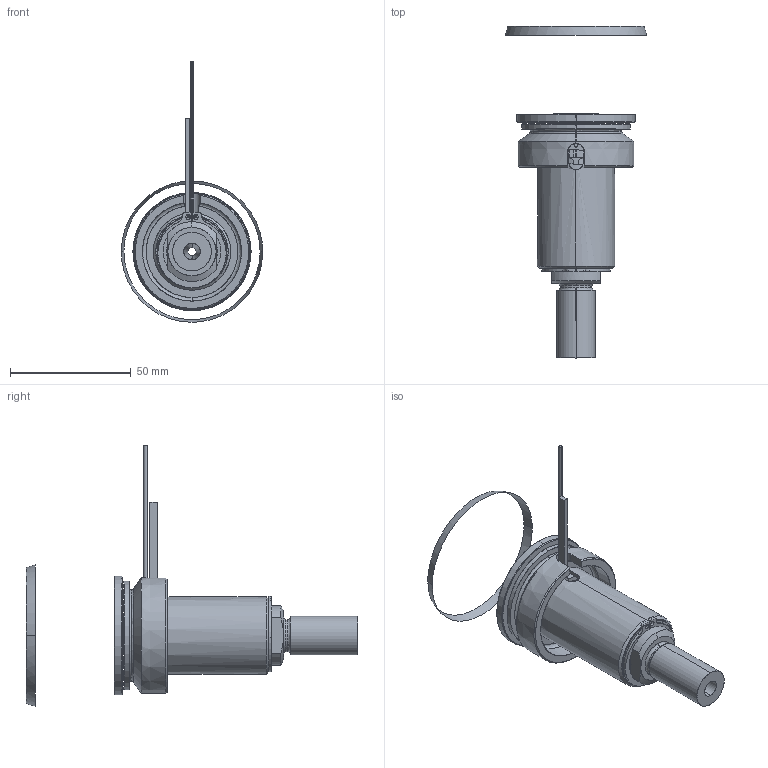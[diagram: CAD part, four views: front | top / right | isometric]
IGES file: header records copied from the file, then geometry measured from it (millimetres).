
Start section: SolidWorks IGES file using analytic representation for surfaces
Global section: file name: C:\Documents and Settings\ws-20\Desktop\TEMPORANEA\UGBE5001-S-A-P-3 [Ød-3.5 P-25 ØC-13].IGS; native system: SolidWorks 2012; preprocessor: SolidWorks 2012; author: ws-20; date: 120306.161552; units: millimetre
Bounding box: 58.57 x 137.44 x 107.94 mm (x, y, z)
Surface area: 33155.8 mm2 (no closed solid volume)
Topology: 0 solids, 0 shells, 111 faces, 2176 edges, 2176 vertices
Faces by surface type: revolution 67, bspline 44
